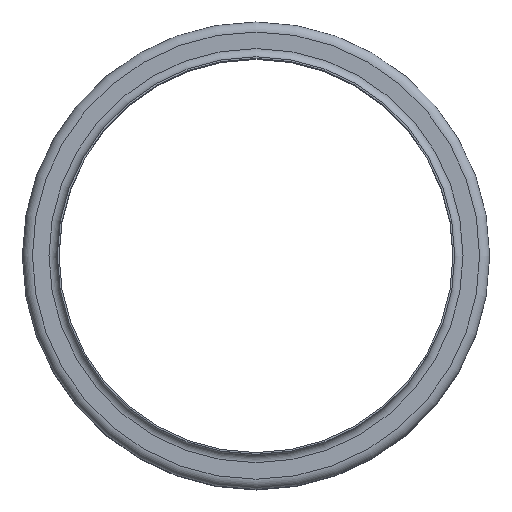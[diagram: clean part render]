
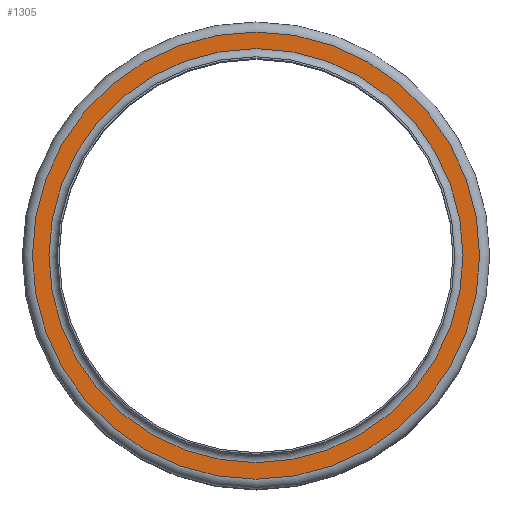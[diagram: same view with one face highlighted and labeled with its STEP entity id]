
A CAD part, top view. The second image highlights one B-rep face of the part: STEP entity #1305.
In plain terms, the highlighted planar face has unit normal (0, 0, 1).
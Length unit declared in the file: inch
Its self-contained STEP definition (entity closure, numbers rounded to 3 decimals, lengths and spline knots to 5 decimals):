
#130=FACE_BOUND('',#384,.T.);
#229=FACE_OUTER_BOUND('',#383,.T.);
#383=EDGE_LOOP('',(#1108));
#384=EDGE_LOOP('',(#1109));
#545=CIRCLE('',#1574,5.649);
#546=CIRCLE('',#1576,6.101);
#658=VERTEX_POINT('',#2470);
#659=VERTEX_POINT('',#2474);
#811=EDGE_CURVE('',#658,#658,#545,.T.);
#812=EDGE_CURVE('',#659,#659,#546,.T.);
#1108=ORIENTED_EDGE('',*,*,#812,.F.);
#1109=ORIENTED_EDGE('',*,*,#811,.T.);
#1206=PLANE('',#1575);
#1305=ADVANCED_FACE('',(#229,#130),#1206,.T.);
#1574=AXIS2_PLACEMENT_3D('',#2472,#2070,#2071);
#1575=AXIS2_PLACEMENT_3D('',#2473,#2072,#2073);
#1576=AXIS2_PLACEMENT_3D('',#2475,#2074,#2075);
#2070=DIRECTION('center_axis',(0.,0.,-1.));
#2071=DIRECTION('ref_axis',(1.,0.,0.));
#2072=DIRECTION('center_axis',(0.,0.,1.));
#2073=DIRECTION('ref_axis',(1.,0.,0.));
#2074=DIRECTION('center_axis',(0.,0.,-1.));
#2075=DIRECTION('ref_axis',(1.,0.,0.));
#2470=CARTESIAN_POINT('',(5.649,0.,-0.226));
#2472=CARTESIAN_POINT('Origin',(0.,0.,-0.226));
#2473=CARTESIAN_POINT('Origin',(0.,6.101,-0.226));
#2474=CARTESIAN_POINT('',(6.101,0.,-0.226));
#2475=CARTESIAN_POINT('Origin',(0.,0.,-0.226));
